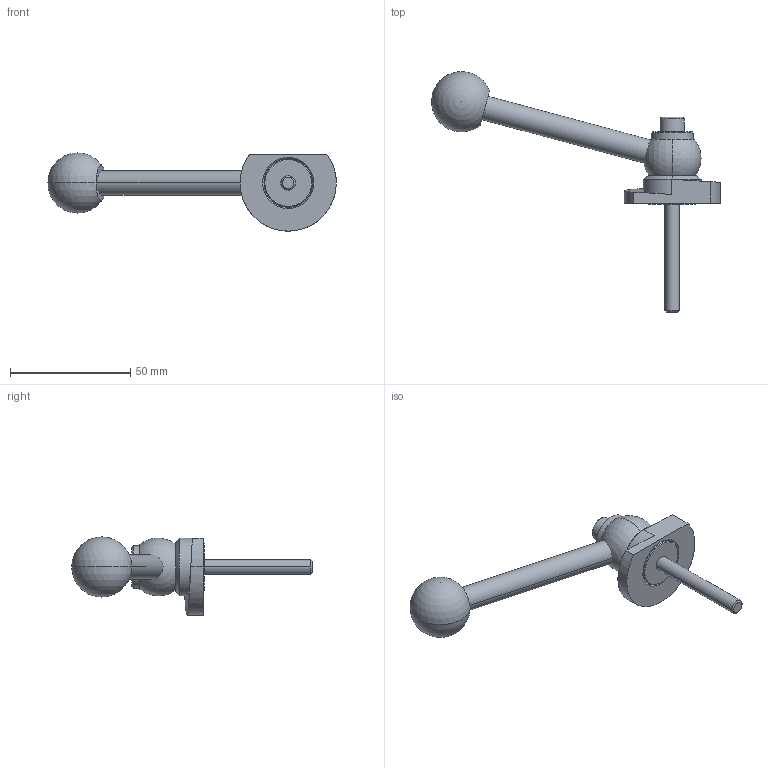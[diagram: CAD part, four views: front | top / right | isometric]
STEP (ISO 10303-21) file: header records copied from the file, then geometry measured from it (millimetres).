
FILE_DESCRIPTION (( 'STEP AP214' ), '1' );
FILE_NAME ('918.1-40-KVS-L-45.step', '2024-05-15T13:00:08', ( '' ), ( '' ), 'SwSTEP 2.0', 'SolidWorks 2022', '' );
FILE_SCHEMA (( 'AUTOMOTIVE_DESIGN' ));
Length unit declared in the file: millimetre
Products named in the file (1): 918.1-40-KVS-L-45
Bounding box: 119.95 x 99.99 x 32.5 mm (x, y, z)
Volume: 31022.6 mm3; surface area: 11684.3 mm2
Topology: 1 solids, 1 shells, 62 faces, 141 edges, 89 vertices
Faces by surface type: plane 20, cylinder 19, cone 14, sphere 4, bspline 3, torus 2
Entity records: 2003 total; most frequent: CARTESIAN_POINT 614, DIRECTION 304, ORIENTED_EDGE 262, EDGE_CURVE 131, AXIS2_PLACEMENT_3D 125, VERTEX_POINT 83, EDGE_LOOP 74, CIRCLE 65
